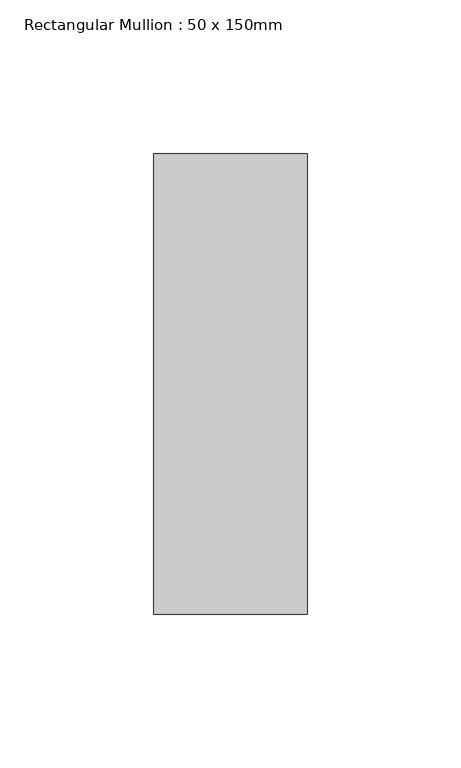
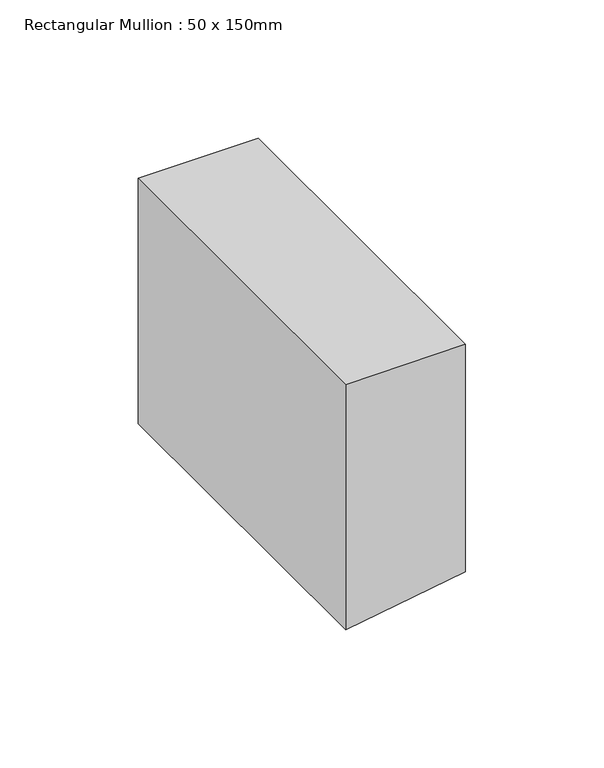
"""IFC4 building model written with IfcOpenShell, lengths in millimetres: member geometry, Rectangular Mullion : 50 x 150mm."""

import ifcopenshell
import ifcopenshell.guid

model = None  # the IFC model being written
_history = None  # IfcOwnerHistory: only IFC2X3 demands one
_inside = {}  # id of a spatial element -> (the spatial element, [elements in it])
_under = {}  # id of a project, library or spatial element -> (it, [spatial elements below it])
_declared = {}  # id of a project -> (the project, [libraries it declares])
_typed = {}  # id of a type object -> (the type object, [elements of that type])
_made_of = {}  # id of a material, layer set ... -> (it, [elements and type objects made of it])


def new_model(schema):
    """Start an empty IFC model of exactly this schema.

    Asked for "IFC4X3", IfcOpenShell would pick the latest addendum, in which some entities
    have other attributes; the version numbers below select the first issue.
    IFC2X3 requires an IfcOwnerHistory on every rooted entity: one is made here for all.
    """
    global model, _history
    if schema == "IFC4X3":
        model = ifcopenshell.file(schema_version=(4, 3, 0, 0))
    else:
        model = ifcopenshell.file(schema=schema)
    _inside.clear()
    _under.clear()
    _declared.clear()
    _typed.clear()
    _made_of.clear()
    _history = None
    if model.schema == "IFC2X3":
        org = make("IfcOrganization", Name="unknown")
        user = make(
            "IfcPersonAndOrganization",
            ThePerson=make("IfcPerson", FamilyName="unknown"),
            TheOrganization=org,
        )
        app = make(
            "IfcApplication",
            ApplicationDeveloper=org,
            Version="unknown",
            ApplicationFullName="unknown",
            ApplicationIdentifier="unknown",
        )
        _history = make(
            "IfcOwnerHistory",
            OwningUser=user,
            OwningApplication=app,
            ChangeAction="ADDED",
            CreationDate=0,
        )
    return model


def make(cls, **values):
    """One entity of the class cls with the attributes given. An attribute that is None is left unset."""
    return model.create_entity(
        cls, **{name: value for name, value in values.items() if value is not None}
    )


def rooted(cls, **values):
    """An entity with a GlobalId (a new one), such as an element, a storey or a relation."""
    return make(cls, GlobalId=ifcopenshell.guid.new(), OwnerHistory=_history, **values)


def si_unit(unit_type, name, prefix=None):
    """IfcSIUnit, for example si_unit("LENGTHUNIT", "METRE", prefix="MILLI")."""
    return make("IfcSIUnit", UnitType=unit_type, Prefix=prefix, Name=name)


def assignment(units):
    """IfcUnitAssignment: the units of a project."""
    return None if units is None else make("IfcUnitAssignment", Units=units)


def point(xyz):
    """IfcCartesianPoint."""
    return None if xyz is None else make("IfcCartesianPoint", Coordinates=xyz)


def direction(xyz):
    """IfcDirection."""
    return None if xyz is None else make("IfcDirection", DirectionRatios=xyz)


def frame(location, z_axis=None, x_axis=None):
    """IfcAxis2Placement3D, a coordinate frame: its origin and axes. An axis left out is left unset."""
    return make(
        "IfcAxis2Placement3D",
        Location=point(location),
        Axis=direction(z_axis),
        RefDirection=direction(x_axis),
    )


def origin():
    """The frame at (0, 0, 0) with its axes left unset."""
    return frame((0.0, 0.0, 0.0))


def place(relative_to, where):
    """IfcLocalPlacement: puts the frame where relative to a parent placement (None: the world)."""
    return make(
        "IfcLocalPlacement", PlacementRelTo=relative_to, RelativePlacement=where
    )


def context(
    kind, dimensions, precision=None, world=None, true_north=None, identifier=None
):
    """IfcGeometricRepresentationContext, for example the 3D "Model" context."""
    return make(
        "IfcGeometricRepresentationContext",
        ContextIdentifier=identifier,
        ContextType=kind,
        CoordinateSpaceDimension=dimensions,
        Precision=precision,
        WorldCoordinateSystem=world,
        TrueNorth=true_north,
    )


def project(units=None, contexts=None):
    """IfcProject with its units and contexts."""
    return rooted(
        "IfcProject",
        Name="project",
        RepresentationContexts=contexts,
        UnitsInContext=assignment(units),
    )


def spatial(cls, under=None, at=None, **own):
    """A site, building, storey or space (cls), placed at a placement, below another one or the project."""
    s = rooted(cls, ObjectPlacement=at, **own)
    if under is not None:
        _under.setdefault(under.id(), (under, []))[1].append(s)
    return s


def polyline(points):
    """IfcPolyline through the points."""
    return make("IfcPolyline", Points=[point(p) for p in points])


def outline(outer, holes=None, kind="AREA"):
    """IfcArbitraryClosedProfileDef: a profile drawn as a closed curve; with holes, ...WithVoids."""
    if holes is None:
        return make("IfcArbitraryClosedProfileDef", ProfileType=kind, OuterCurve=outer)
    return make(
        "IfcArbitraryProfileDefWithVoids",
        ProfileType=kind,
        OuterCurve=outer,
        InnerCurves=holes,
    )


def extrude(swept, where, along, depth):
    """IfcExtrudedAreaSolid: the profile swept, set in the frame where, extruded along a direction by depth."""
    return make(
        "IfcExtrudedAreaSolid",
        SweptArea=swept,
        Position=where,
        ExtrudedDirection=direction(along),
        Depth=depth,
    )


def shape(context_of_items, identifier, shape_type, items):
    """IfcShapeRepresentation: the items that make up one representation, for example the "Body"."""
    return make(
        "IfcShapeRepresentation",
        ContextOfItems=context_of_items,
        RepresentationIdentifier=identifier,
        RepresentationType=shape_type,
        Items=items,
    )


def source(mapping_origin, context_of_items, identifier, shape_type, items):
    """IfcRepresentationMap: a shape defined once, which mapped items show again and again."""
    return make(
        "IfcRepresentationMap",
        MappingOrigin=mapping_origin,
        MappedRepresentation=shape(context_of_items, identifier, shape_type, items),
    )


def transform(
    local_origin,
    x_axis=None,
    y_axis=None,
    z_axis=None,
    scale=None,
    scale2=None,
    scale3=None,
    uniform=True,
):
    """IfcCartesianTransformationOperator3D, or its non-uniform kind. x_axis, y_axis, z_axis: its Axis1, 2, 3."""
    if uniform:
        return make(
            "IfcCartesianTransformationOperator3D",
            Axis1=direction(x_axis),
            Axis2=direction(y_axis),
            LocalOrigin=point(local_origin),
            Scale=scale,
            Axis3=direction(z_axis),
        )
    return make(
        "IfcCartesianTransformationOperator3DnonUniform",
        Axis1=direction(x_axis),
        Axis2=direction(y_axis),
        LocalOrigin=point(local_origin),
        Scale=scale,
        Axis3=direction(z_axis),
        Scale2=scale2,
        Scale3=scale3,
    )


def mapped(mapping_source, mapping_target):
    """IfcMappedItem: shows the shape of a source again, moved by a transform."""
    return make(
        "IfcMappedItem", MappingSource=mapping_source, MappingTarget=mapping_target
    )


def made_of(thing, what):
    """Note that an element or type object is made of a material, layer set ...; save() writes the relation."""
    if what is not None:
        _made_of.setdefault(what.id(), (what, []))[1].append(thing)
    return thing


def element(
    cls,
    number,
    at=None,
    inside=None,
    cuts=None,
    type_object=None,
    material=None,
    context=None,
    identifier="Body",
    shape_type=None,
    held_by="IfcProductDefinitionShape",
    body=None,
    shapes=None,
    **own,
):
    """One element of the class cls, such as IfcWall. Its Tag is "e" and its number.

    at: its placement. inside: the storey or other place that contains it. cuts: it is an
    opening in that element (IfcRelVoidsElement). A single representation is given by context,
    identifier, shape_type and body (its items); several are given by shapes. held_by: the class
    of the entity that holds the representations. save() writes the other relations.
    """
    e = rooted(cls, Tag="e%d" % number, ObjectPlacement=at, **own)
    if body is not None:
        shapes = [shape(context, identifier, shape_type, body)]
    if shapes is not None:
        e.Representation = make(held_by, Representations=shapes)
    if inside is not None:
        _inside.setdefault(inside.id(), (inside, []))[1].append(e)
    if cuts is not None:
        rooted(
            "IfcRelVoidsElement", RelatingBuildingElement=cuts, RelatedOpeningElement=e
        )
    if type_object is not None:
        _typed.setdefault(type_object.id(), (type_object, []))[1].append(e)
    return made_of(e, material)


def aggregate(whole, parts):
    """IfcRelAggregates: a whole, such as a stair, and the parts it consists of."""
    return rooted("IfcRelAggregates", RelatingObject=whole, RelatedObjects=parts)


def save(model, path):
    """Write the relations noted so far, then the file.

    IfcRelAggregates (storeys below a building ...), IfcRelContainedInSpatialStructure (elements
    in a storey), IfcRelDefinesByType, IfcRelAssociatesMaterial and IfcRelDeclares: one each for
    every whole, place, type object, material and project.
    """
    for whole, parts in _under.values():
        aggregate(whole, parts)
    for where, things in _inside.values():
        rooted(
            "IfcRelContainedInSpatialStructure",
            RelatedElements=things,
            RelatingStructure=where,
        )
    for kind, things in _typed.values():
        rooted("IfcRelDefinesByType", RelatedObjects=things, RelatingType=kind)
    for what, things in _made_of.values():
        rooted("IfcRelAssociatesMaterial", RelatedObjects=things, RelatingMaterial=what)
    for by, libraries in _declared.values():
        rooted("IfcRelDeclares", RelatingContext=by, RelatedDefinitions=libraries)
    model.write(path)


def rectangular_mullion_50_x_150mm_65ce165c(model_context):
    return source(origin(), model_context, "Body", "SweptSolid", [
        extrude(outline(polyline([(0.0, 0.0), (-0.2331687, -50.0), (-108.4451423, -50.0), (-100.2801478, 0.0), (0.0, 0.0)])), frame((0.0, -75.0, 0.0), z_axis=(0.0, 1.0, 0.0), x_axis=(0.0, 0.0, 1.0)), (0.0, 0.0, 1.0), 150.0),
    ])


if __name__ == "__main__":
    model = new_model("IFC4")
    model_context = context("Model", 3, world=origin())
    ifc_project = project(units=[si_unit("LENGTHUNIT", "METRE", prefix="MILLI")], contexts=[model_context])
    site = spatial("IfcSite", under=ifc_project)
    building = spatial("IfcBuilding", under=site)
    placement = place(None, origin())
    rectangular_mullion_50_x_150mm_shape = rectangular_mullion_50_x_150mm_65ce165c(model_context)
    element("IfcMember", 1, ObjectType="Rectangular Mullion : 50 x 150mm", at=placement, inside=building, context=model_context, shape_type="MappedRepresentation", body=[
        mapped(rectangular_mullion_50_x_150mm_shape, transform((0.0, 0.0, 0.0), x_axis=(1.0, 0.0, 0.0), y_axis=(0.0, 1.0, 0.0), z_axis=(0.0, 0.0, 1.0))),
    ])
    save(model, "model.ifc")
